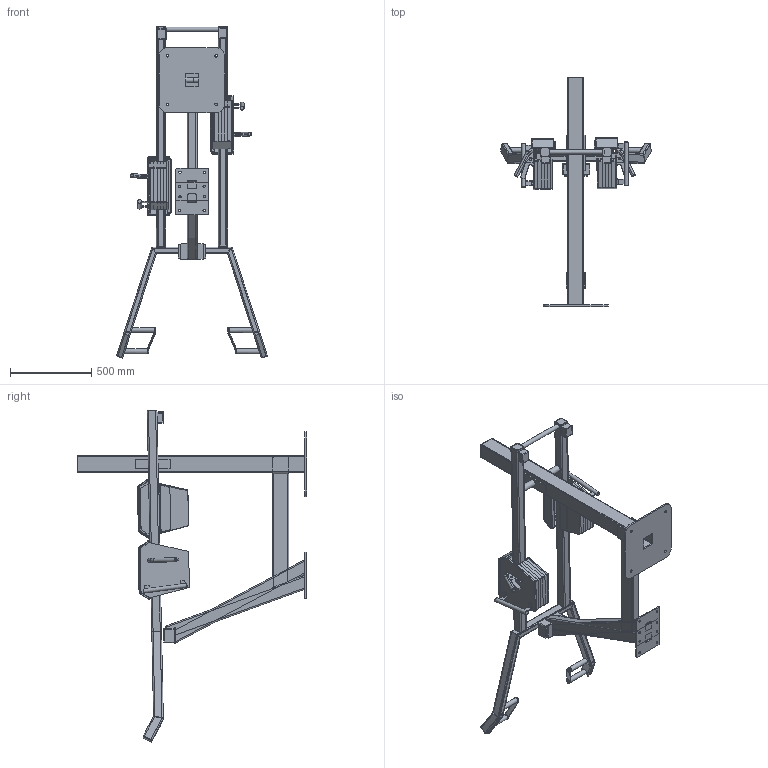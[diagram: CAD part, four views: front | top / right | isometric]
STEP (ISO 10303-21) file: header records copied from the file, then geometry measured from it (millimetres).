
FILE_DESCRIPTION(/* description */ (''),/* implementation_level */ '2;1');
FILE_NAME(/* name */ 'OGFA41_3D_Low.step',/* time_stamp */ '2025-11-11T16:11:34+02:00',/* author */ (''),/* organization */ (''),/* preprocessor_version */ 'ST-DEVELOPER v20.1',/* originating_system */ 'Autodesk Translation Framework v14.21.0.0',/* authorisation */ '');
FILE_SCHEMA (('AUTOMOTIVE_DESIGN { 1 0 10303 214 3 1 1 }'));
Length unit declared in the file: millimetre
Products named in the file (1): OGFA41_3D_Low
Bounding box: 929.25 x 1413 x 2046.9 mm (x, y, z)
Volume: 29202393 mm3; surface area: 8233847.8 mm2
Topology: 87 solids, 87 shells, 1518 faces, 3654 edges, 2322 vertices
Faces by surface type: plane 803, cylinder 582, torus 54, cone 45, bspline 22, sphere 12
Full cylindrical faces by diameter (mm): 8.5 x5, 10 x2, 11.8 x2, 13 x45, 14 x8, 16 x4, 18.5 x1, 24 x6, 25 x2, 28 x1, 28.2 x2, 29 x2, 30 x7, 31 x8, 35 x12, 39.8 x2, 40 x3, 50 x6, 60 x12
Entity records: 46088 total; most frequent: CARTESIAN_POINT 9220, DIRECTION 7900, ORIENTED_EDGE 7308, EDGE_CURVE 3654, AXIS2_PLACEMENT_3D 2828, VERTEX_POINT 2322, LINE 2244, VECTOR 2244
